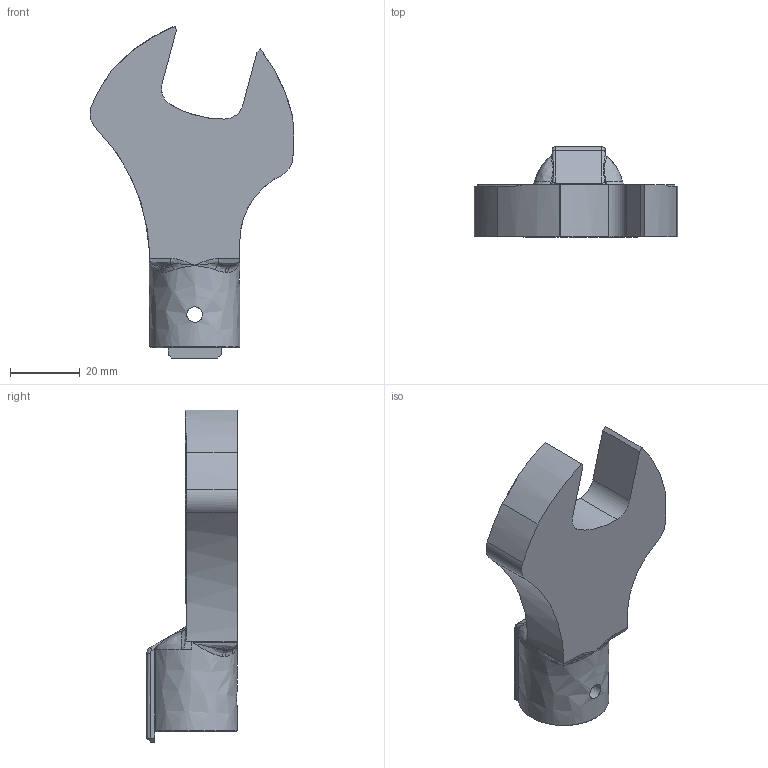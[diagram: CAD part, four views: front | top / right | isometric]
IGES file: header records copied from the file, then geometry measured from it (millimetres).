
Global section: file name: SH19DX24; native system: Autodesk Inventor 2016; preprocessor: unknown; author: Q600; date: 20151029.175852; units: millimetre
Bounding box: 58.66 x 26 x 95.51 mm (x, y, z)
Volume: 40384.8 mm3; surface area: 11873.5 mm2
Topology: 1 solids, 1 shells, 100 faces, 274 edges, 168 vertices
Faces by surface type: bspline 100
